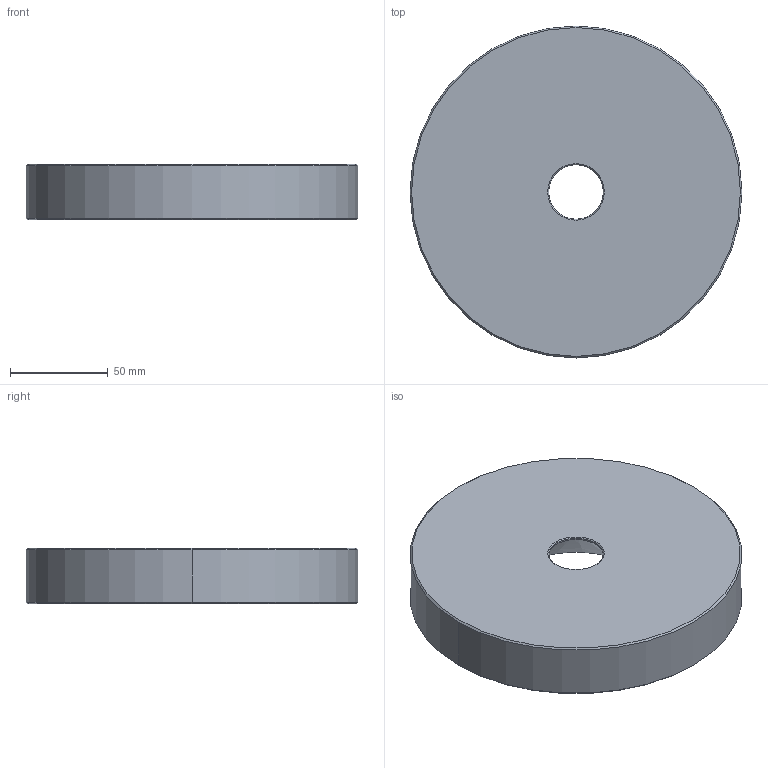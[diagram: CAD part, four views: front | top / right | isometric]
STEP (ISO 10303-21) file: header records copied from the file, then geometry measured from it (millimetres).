
FILE_DESCRIPTION((''),'2;1');
FILE_NAME('RMC-8008','2007-09-26T',('glafferty'),('Pleasant Precision, Inc. (419)675-0556'),'PRO/ENGINEER BY PARAMETRIC TECHNOLOGY CORPORATION, 2006080','PRO/ENGINEER BY PARAMETRIC TECHNOLOGY CORPORATION, 2006080','');
FILE_SCHEMA(('CONFIG_CONTROL_DESIGN'));
Length unit declared in the file: inch
Products named in the file (1): RMC-8008
Bounding box: 170.18 x 170.18 x 28.58 mm (x, y, z)
Volume: 578068.4 mm3; surface area: 61097 mm2
Topology: 1 solids, 1 shells, 14 faces, 28 edges, 16 vertices
Faces by surface type: cone 8, cylinder 4, plane 2
Entity records: 408 total; most frequent: DIRECTION 72, CARTESIAN_POINT 58, ORIENTED_EDGE 56, AXIS2_PLACEMENT_3D 30, EDGE_CURVE 28, VERTEX_POINT 16, EDGE_LOOP 16, CIRCLE 16
